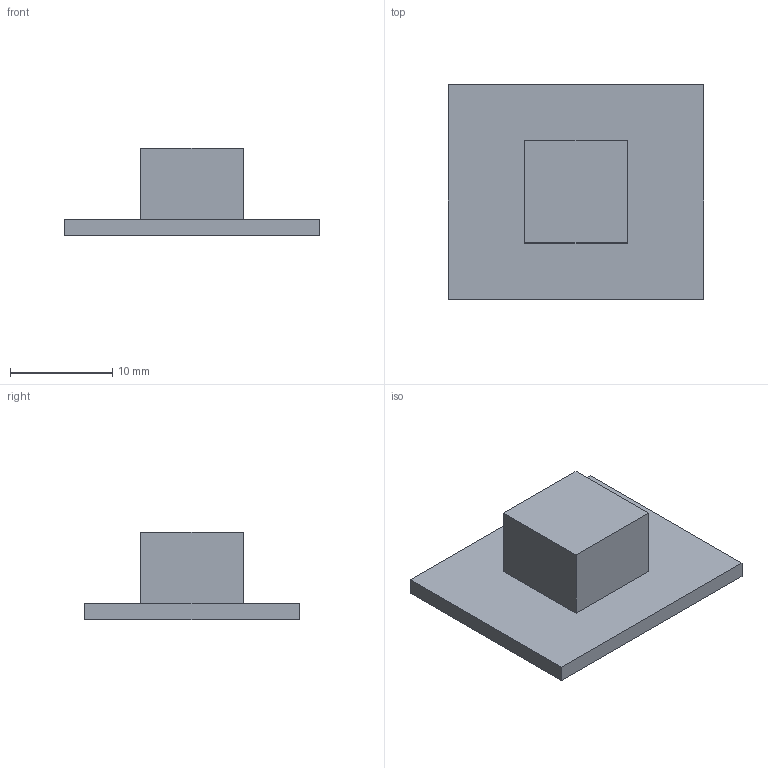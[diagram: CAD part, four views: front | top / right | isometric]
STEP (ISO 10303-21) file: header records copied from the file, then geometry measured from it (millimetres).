
FILE_DESCRIPTION(('Open CASCADE Model'),'2;1');
FILE_NAME('Open CASCADE Shape Model','2026-08-07T13:51:21',('Author'),( 'Open CASCADE'),'Open CASCADE STEP processor 7.9','Open CASCADE 7.9' ,'Unknown');
FILE_SCHEMA(('AUTOMOTIVE_DESIGN { 1 0 10303 214 1 1 1 1 }'));
Length unit declared in the file: millimetre
Products named in the file (1): SCD41模組(外購)
Bounding box: 25 x 21 x 8.6 mm (x, y, z)
Volume: 1540 mm3; surface area: 1477.2 mm2
Topology: 1 solids, 1 shells, 11 faces, 24 edges, 16 vertices
Faces by surface type: plane 11
Entity records: 620 total; most frequent: CARTESIAN_POINT 100, DIRECTION 96, LINE 72, VECTOR 72, ORIENTED_EDGE 48, PCURVE 48, DEFINITIONAL_REPRESENTATION 48, EDGE_CURVE 24
